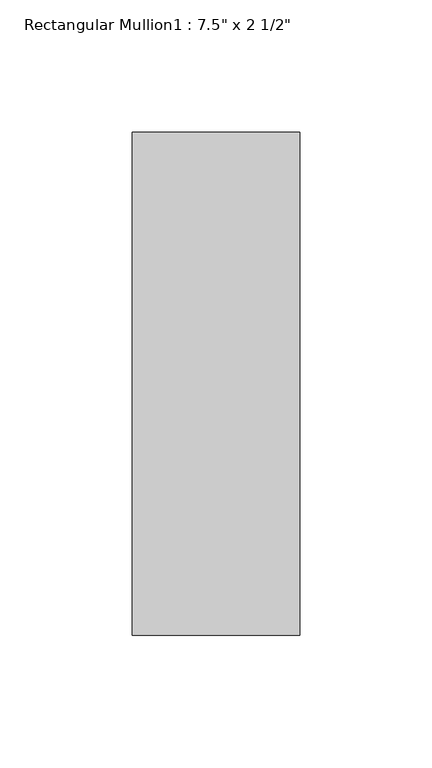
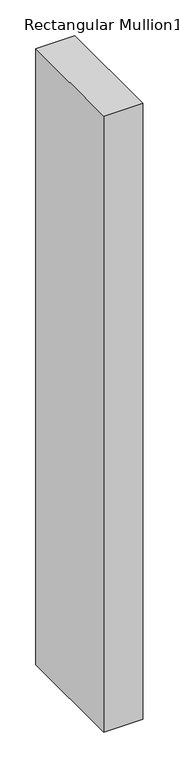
"""IFC4 building model written with IfcOpenShell, lengths in millimetres: member geometry."""

import ifcopenshell
import ifcopenshell.guid

model = None  # the IFC model being written
_history = None  # IfcOwnerHistory: only IFC2X3 demands one
_inside = {}  # id of a spatial element -> (the spatial element, [elements in it])
_under = {}  # id of a project, library or spatial element -> (it, [spatial elements below it])
_declared = {}  # id of a project -> (the project, [libraries it declares])
_typed = {}  # id of a type object -> (the type object, [elements of that type])
_made_of = {}  # id of a material, layer set ... -> (it, [elements and type objects made of it])


def new_model(schema):
    """Start an empty IFC model of exactly this schema.

    Asked for "IFC4X3", IfcOpenShell would pick the latest addendum, in which some entities
    have other attributes; the version numbers below select the first issue.
    IFC2X3 requires an IfcOwnerHistory on every rooted entity: one is made here for all.
    """
    global model, _history
    if schema == "IFC4X3":
        model = ifcopenshell.file(schema_version=(4, 3, 0, 0))
    else:
        model = ifcopenshell.file(schema=schema)
    _inside.clear()
    _under.clear()
    _declared.clear()
    _typed.clear()
    _made_of.clear()
    _history = None
    if model.schema == "IFC2X3":
        org = make("IfcOrganization", Name="unknown")
        user = make(
            "IfcPersonAndOrganization",
            ThePerson=make("IfcPerson", FamilyName="unknown"),
            TheOrganization=org,
        )
        app = make(
            "IfcApplication",
            ApplicationDeveloper=org,
            Version="unknown",
            ApplicationFullName="unknown",
            ApplicationIdentifier="unknown",
        )
        _history = make(
            "IfcOwnerHistory",
            OwningUser=user,
            OwningApplication=app,
            ChangeAction="ADDED",
            CreationDate=0,
        )
    return model


def make(cls, **values):
    """One entity of the class cls with the attributes given. An attribute that is None is left unset."""
    return model.create_entity(
        cls, **{name: value for name, value in values.items() if value is not None}
    )


def rooted(cls, **values):
    """An entity with a GlobalId (a new one), such as an element, a storey or a relation."""
    return make(cls, GlobalId=ifcopenshell.guid.new(), OwnerHistory=_history, **values)


def si_unit(unit_type, name, prefix=None):
    """IfcSIUnit, for example si_unit("LENGTHUNIT", "METRE", prefix="MILLI")."""
    return make("IfcSIUnit", UnitType=unit_type, Prefix=prefix, Name=name)


def assignment(units):
    """IfcUnitAssignment: the units of a project."""
    return None if units is None else make("IfcUnitAssignment", Units=units)


def point(xyz):
    """IfcCartesianPoint."""
    return None if xyz is None else make("IfcCartesianPoint", Coordinates=xyz)


def direction(xyz):
    """IfcDirection."""
    return None if xyz is None else make("IfcDirection", DirectionRatios=xyz)


def frame(location, z_axis=None, x_axis=None):
    """IfcAxis2Placement3D, a coordinate frame: its origin and axes. An axis left out is left unset."""
    return make(
        "IfcAxis2Placement3D",
        Location=point(location),
        Axis=direction(z_axis),
        RefDirection=direction(x_axis),
    )


def origin():
    """The frame at (0, 0, 0) with its axes left unset."""
    return frame((0.0, 0.0, 0.0))


def place(relative_to, where):
    """IfcLocalPlacement: puts the frame where relative to a parent placement (None: the world)."""
    return make(
        "IfcLocalPlacement", PlacementRelTo=relative_to, RelativePlacement=where
    )


def context(
    kind, dimensions, precision=None, world=None, true_north=None, identifier=None
):
    """IfcGeometricRepresentationContext, for example the 3D "Model" context."""
    return make(
        "IfcGeometricRepresentationContext",
        ContextIdentifier=identifier,
        ContextType=kind,
        CoordinateSpaceDimension=dimensions,
        Precision=precision,
        WorldCoordinateSystem=world,
        TrueNorth=true_north,
    )


def project(units=None, contexts=None):
    """IfcProject with its units and contexts."""
    return rooted(
        "IfcProject",
        Name="project",
        RepresentationContexts=contexts,
        UnitsInContext=assignment(units),
    )


def spatial(cls, under=None, at=None, **own):
    """A site, building, storey or space (cls), placed at a placement, below another one or the project."""
    s = rooted(cls, ObjectPlacement=at, **own)
    if under is not None:
        _under.setdefault(under.id(), (under, []))[1].append(s)
    return s


def polyline(points):
    """IfcPolyline through the points."""
    return make("IfcPolyline", Points=[point(p) for p in points])


def outline(outer, holes=None, kind="AREA"):
    """IfcArbitraryClosedProfileDef: a profile drawn as a closed curve; with holes, ...WithVoids."""
    if holes is None:
        return make("IfcArbitraryClosedProfileDef", ProfileType=kind, OuterCurve=outer)
    return make(
        "IfcArbitraryProfileDefWithVoids",
        ProfileType=kind,
        OuterCurve=outer,
        InnerCurves=holes,
    )


def extrude(swept, where, along, depth):
    """IfcExtrudedAreaSolid: the profile swept, set in the frame where, extruded along a direction by depth."""
    return make(
        "IfcExtrudedAreaSolid",
        SweptArea=swept,
        Position=where,
        ExtrudedDirection=direction(along),
        Depth=depth,
    )


def shape(context_of_items, identifier, shape_type, items):
    """IfcShapeRepresentation: the items that make up one representation, for example the "Body"."""
    return make(
        "IfcShapeRepresentation",
        ContextOfItems=context_of_items,
        RepresentationIdentifier=identifier,
        RepresentationType=shape_type,
        Items=items,
    )


def source(mapping_origin, context_of_items, identifier, shape_type, items):
    """IfcRepresentationMap: a shape defined once, which mapped items show again and again."""
    return make(
        "IfcRepresentationMap",
        MappingOrigin=mapping_origin,
        MappedRepresentation=shape(context_of_items, identifier, shape_type, items),
    )


def transform(
    local_origin,
    x_axis=None,
    y_axis=None,
    z_axis=None,
    scale=None,
    scale2=None,
    scale3=None,
    uniform=True,
):
    """IfcCartesianTransformationOperator3D, or its non-uniform kind. x_axis, y_axis, z_axis: its Axis1, 2, 3."""
    if uniform:
        return make(
            "IfcCartesianTransformationOperator3D",
            Axis1=direction(x_axis),
            Axis2=direction(y_axis),
            LocalOrigin=point(local_origin),
            Scale=scale,
            Axis3=direction(z_axis),
        )
    return make(
        "IfcCartesianTransformationOperator3DnonUniform",
        Axis1=direction(x_axis),
        Axis2=direction(y_axis),
        LocalOrigin=point(local_origin),
        Scale=scale,
        Axis3=direction(z_axis),
        Scale2=scale2,
        Scale3=scale3,
    )


def mapped(mapping_source, mapping_target):
    """IfcMappedItem: shows the shape of a source again, moved by a transform."""
    return make(
        "IfcMappedItem", MappingSource=mapping_source, MappingTarget=mapping_target
    )


def made_of(thing, what):
    """Note that an element or type object is made of a material, layer set ...; save() writes the relation."""
    if what is not None:
        _made_of.setdefault(what.id(), (what, []))[1].append(thing)
    return thing


def element(
    cls,
    number,
    at=None,
    inside=None,
    cuts=None,
    type_object=None,
    material=None,
    context=None,
    identifier="Body",
    shape_type=None,
    held_by="IfcProductDefinitionShape",
    body=None,
    shapes=None,
    **own,
):
    """One element of the class cls, such as IfcWall. Its Tag is "e" and its number.

    at: its placement. inside: the storey or other place that contains it. cuts: it is an
    opening in that element (IfcRelVoidsElement). A single representation is given by context,
    identifier, shape_type and body (its items); several are given by shapes. held_by: the class
    of the entity that holds the representations. save() writes the other relations.
    """
    e = rooted(cls, Tag="e%d" % number, ObjectPlacement=at, **own)
    if body is not None:
        shapes = [shape(context, identifier, shape_type, body)]
    if shapes is not None:
        e.Representation = make(held_by, Representations=shapes)
    if inside is not None:
        _inside.setdefault(inside.id(), (inside, []))[1].append(e)
    if cuts is not None:
        rooted(
            "IfcRelVoidsElement", RelatingBuildingElement=cuts, RelatedOpeningElement=e
        )
    if type_object is not None:
        _typed.setdefault(type_object.id(), (type_object, []))[1].append(e)
    return made_of(e, material)


def aggregate(whole, parts):
    """IfcRelAggregates: a whole, such as a stair, and the parts it consists of."""
    return rooted("IfcRelAggregates", RelatingObject=whole, RelatedObjects=parts)


def save(model, path):
    """Write the relations noted so far, then the file.

    IfcRelAggregates (storeys below a building ...), IfcRelContainedInSpatialStructure (elements
    in a storey), IfcRelDefinesByType, IfcRelAssociatesMaterial and IfcRelDeclares: one each for
    every whole, place, type object, material and project.
    """
    for whole, parts in _under.values():
        aggregate(whole, parts)
    for where, things in _inside.values():
        rooted(
            "IfcRelContainedInSpatialStructure",
            RelatedElements=things,
            RelatingStructure=where,
        )
    for kind, things in _typed.values():
        rooted("IfcRelDefinesByType", RelatedObjects=things, RelatingType=kind)
    for what, things in _made_of.values():
        rooted("IfcRelAssociatesMaterial", RelatedObjects=things, RelatingMaterial=what)
    for by, libraries in _declared.values():
        rooted("IfcRelDeclares", RelatingContext=by, RelatedDefinitions=libraries)
    model.write(path)


def member_38c5a811(model_context):
    return source(origin(), model_context, "Body", "SweptSolid", [
        extrude(outline(polyline([(-63.5, 165.1), (0.0, 165.1), (0.0, -25.4), (-63.5, -25.4), (-63.5, 165.1)])), frame((0.0, 0.0, -1054.1), z_axis=(0.0, 0.0, 1.0), x_axis=(1.0, 0.0, 0.0)), (0.0, 0.0, 1.0), 1054.1),
    ])


if __name__ == "__main__":
    model = new_model("IFC4")
    model_context = context("Model", 3, world=origin())
    ifc_project = project(units=[si_unit("LENGTHUNIT", "METRE", prefix="MILLI")], contexts=[model_context])
    site = spatial("IfcSite", under=ifc_project)
    building = spatial("IfcBuilding", under=site)
    placement = place(None, origin())
    member_shape = member_38c5a811(model_context)
    element("IfcMember", 1, ObjectType="Rectangular Mullion1 : 7.5\" x 2 1/2\"", at=placement, inside=building, context=model_context, shape_type="MappedRepresentation", body=[
        mapped(member_shape, transform((0.0, 0.0, 0.0), x_axis=(1.0, 0.0, 0.0), y_axis=(0.0, 1.0, 0.0), z_axis=(0.0, 0.0, 1.0))),
    ])
    save(model, "model.ifc")
